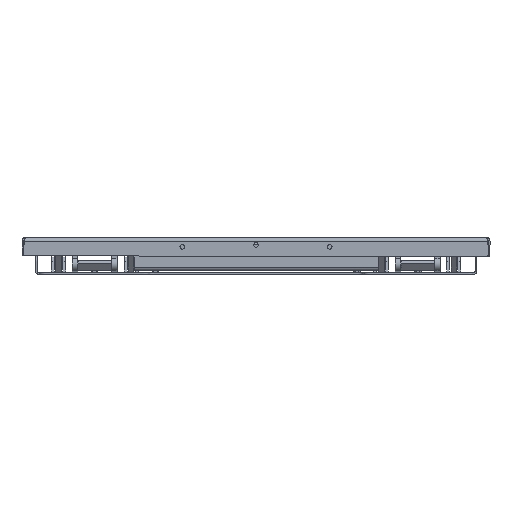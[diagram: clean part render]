
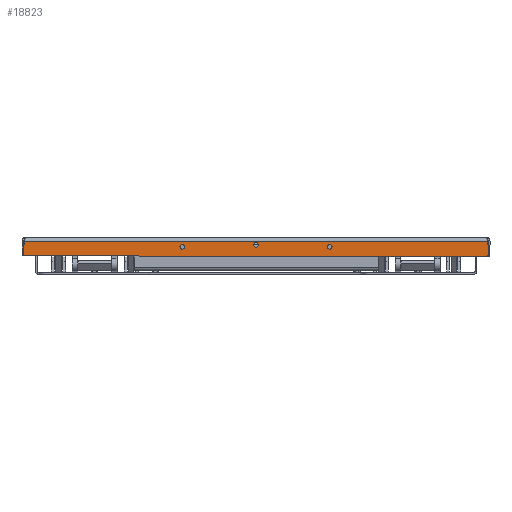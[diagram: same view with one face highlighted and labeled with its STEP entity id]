
A CAD part, front view. The second image highlights one B-rep face of the part: STEP entity #18823.
In plain terms, the highlighted planar face has unit normal (0, -1, 0) as drawn and (-1, 0, 0) by its records, which use the part's own axes.
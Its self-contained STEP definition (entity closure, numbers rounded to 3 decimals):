
#577=FACE_BOUND('',#4084,.T.);
#578=FACE_BOUND('',#4085,.T.);
#579=FACE_BOUND('',#4086,.T.);
#1377=CIRCLE('',#20685,1.);
#1379=CIRCLE('',#20688,1.);
#1380=CIRCLE('',#20689,1.);
#1381=CIRCLE('',#20690,1.);
#1382=CIRCLE('',#20691,6.25);
#1383=CIRCLE('',#20692,6.25);
#1384=CIRCLE('',#20693,6.25);
#2905=FACE_OUTER_BOUND('',#4083,.T.);
#4083=EDGE_LOOP('',(#15958,#15959,#15960,#15961,#15962,#15963,#15964,#15965,
#15966,#15967));
#4084=EDGE_LOOP('',(#15968));
#4085=EDGE_LOOP('',(#15969));
#4086=EDGE_LOOP('',(#15970));
#5636=LINE('',#31010,#7238);
#5637=LINE('',#31014,#7239);
#5638=LINE('',#31016,#7240);
#5639=LINE('',#31018,#7241);
#5640=LINE('',#31022,#7242);
#5641=LINE('',#31025,#7243);
#7238=VECTOR('',#25382,10.);
#7239=VECTOR('',#25385,10.);
#7240=VECTOR('',#25386,10.);
#7241=VECTOR('',#25387,10.);
#7242=VECTOR('',#25390,10.);
#7243=VECTOR('',#25393,10.);
#8958=VERTEX_POINT('',#31000);
#8959=VERTEX_POINT('',#31001);
#8962=VERTEX_POINT('',#31009);
#8963=VERTEX_POINT('',#31011);
#8964=VERTEX_POINT('',#31013);
#8965=VERTEX_POINT('',#31015);
#8966=VERTEX_POINT('',#31017);
#8967=VERTEX_POINT('',#31019);
#8968=VERTEX_POINT('',#31021);
#8969=VERTEX_POINT('',#31023);
#8970=VERTEX_POINT('',#31026);
#8971=VERTEX_POINT('',#31028);
#8972=VERTEX_POINT('',#31030);
#11419=EDGE_CURVE('',#8958,#8959,#1377,.T.);
#11423=EDGE_CURVE('',#8958,#8962,#5636,.T.);
#11424=EDGE_CURVE('',#8963,#8962,#1379,.T.);
#11425=EDGE_CURVE('',#8963,#8964,#5637,.T.);
#11426=EDGE_CURVE('',#8964,#8965,#5638,.T.);
#11427=EDGE_CURVE('',#8965,#8966,#5639,.T.);
#11428=EDGE_CURVE('',#8967,#8966,#1380,.T.);
#11429=EDGE_CURVE('',#8967,#8968,#5640,.T.);
#11430=EDGE_CURVE('',#8969,#8968,#1381,.T.);
#11431=EDGE_CURVE('',#8959,#8969,#5641,.T.);
#11432=EDGE_CURVE('',#8970,#8970,#1382,.T.);
#11433=EDGE_CURVE('',#8971,#8971,#1383,.T.);
#11434=EDGE_CURVE('',#8972,#8972,#1384,.T.);
#15958=ORIENTED_EDGE('',*,*,#11419,.F.);
#15959=ORIENTED_EDGE('',*,*,#11423,.T.);
#15960=ORIENTED_EDGE('',*,*,#11424,.F.);
#15961=ORIENTED_EDGE('',*,*,#11425,.T.);
#15962=ORIENTED_EDGE('',*,*,#11426,.T.);
#15963=ORIENTED_EDGE('',*,*,#11427,.T.);
#15964=ORIENTED_EDGE('',*,*,#11428,.F.);
#15965=ORIENTED_EDGE('',*,*,#11429,.T.);
#15966=ORIENTED_EDGE('',*,*,#11430,.F.);
#15967=ORIENTED_EDGE('',*,*,#11431,.F.);
#15968=ORIENTED_EDGE('',*,*,#11432,.T.);
#15969=ORIENTED_EDGE('',*,*,#11433,.T.);
#15970=ORIENTED_EDGE('',*,*,#11434,.T.);
#18034=PLANE('',#20687);
#18823=ADVANCED_FACE('',(#2905,#577,#578,#579),#18034,.F.);
#20685=AXIS2_PLACEMENT_3D('',#31002,#25374,#25375);
#20687=AXIS2_PLACEMENT_3D('',#31008,#25380,#25381);
#20688=AXIS2_PLACEMENT_3D('',#31012,#25383,#25384);
#20689=AXIS2_PLACEMENT_3D('',#31020,#25388,#25389);
#20690=AXIS2_PLACEMENT_3D('',#31024,#25391,#25392);
#20691=AXIS2_PLACEMENT_3D('',#31027,#25394,#25395);
#20692=AXIS2_PLACEMENT_3D('',#31029,#25396,#25397);
#20693=AXIS2_PLACEMENT_3D('',#31031,#25398,#25399);
#25374=DIRECTION('center_axis',(1.,0.,0.));
#25375=DIRECTION('ref_axis',(0.,0.707,0.707));
#25380=DIRECTION('center_axis',(1.,0.,0.));
#25381=DIRECTION('ref_axis',(0.,0.,-1.));
#25382=DIRECTION('',(0.,0.,-1.));
#25383=DIRECTION('center_axis',(1.,0.,0.));
#25384=DIRECTION('ref_axis',(0.,1.,-0.029));
#25385=DIRECTION('',(0.,-0.057,-0.998));
#25386=DIRECTION('',(0.,-1.,0.));
#25387=DIRECTION('',(0.,-0.057,0.998));
#25388=DIRECTION('center_axis',(1.,0.,0.));
#25389=DIRECTION('ref_axis',(0.,-1.,-0.029));
#25390=DIRECTION('',(0.,0.,1.));
#25391=DIRECTION('center_axis',(1.,0.,0.));
#25392=DIRECTION('ref_axis',(0.,-0.707,0.707));
#25393=DIRECTION('',(0.,-1.,0.));
#25394=DIRECTION('center_axis',(1.,0.,0.));
#25395=DIRECTION('ref_axis',(0.,0.,-1.));
#25396=DIRECTION('center_axis',(1.,0.,0.));
#25397=DIRECTION('ref_axis',(0.,0.,-1.));
#25398=DIRECTION('center_axis',(1.,0.,0.));
#25399=DIRECTION('ref_axis',(0.,0.,-1.));
#31000=CARTESIAN_POINT('',(-675.,629.89,49.));
#31001=CARTESIAN_POINT('',(-675.,628.89,50.));
#31002=CARTESIAN_POINT('Origin',(-675.,628.89,49.));
#31008=CARTESIAN_POINT('Origin',(-675.,0.,24.972));
#31009=CARTESIAN_POINT('',(-675.,629.89,24.608));
#31010=CARTESIAN_POINT('',(-675.,629.89,37.486));
#31011=CARTESIAN_POINT('',(-675.,629.888,24.551));
#31012=CARTESIAN_POINT('Origin',(-675.,628.89,24.608));
#31013=CARTESIAN_POINT('',(-675.,629.057,10.));
#31014=CARTESIAN_POINT('',(-675.,628.876,6.837));
#31015=CARTESIAN_POINT('',(-675.,-629.057,10.));
#31016=CARTESIAN_POINT('',(-675.,0.,10.));
#31017=CARTESIAN_POINT('',(-675.,-629.888,24.551));
#31018=CARTESIAN_POINT('',(-675.,-628.876,6.837));
#31019=CARTESIAN_POINT('',(-675.,-629.89,24.608));
#31020=CARTESIAN_POINT('Origin',(-675.,-628.89,24.608));
#31021=CARTESIAN_POINT('',(-675.,-629.89,49.));
#31022=CARTESIAN_POINT('',(-675.,-629.89,37.486));
#31023=CARTESIAN_POINT('',(-675.,-628.89,50.));
#31024=CARTESIAN_POINT('Origin',(-675.,-628.89,49.));
#31025=CARTESIAN_POINT('',(-675.,629.9,50.));
#31026=CARTESIAN_POINT('',(-675.,-200.,31.25));
#31027=CARTESIAN_POINT('Origin',(-675.,-200.,25.));
#31028=CARTESIAN_POINT('',(-675.,0.,26.25));
#31029=CARTESIAN_POINT('Origin',(-675.,0.,
20.));
#31030=CARTESIAN_POINT('',(-675.,200.,31.25));
#31031=CARTESIAN_POINT('Origin',(-675.,200.,25.));
